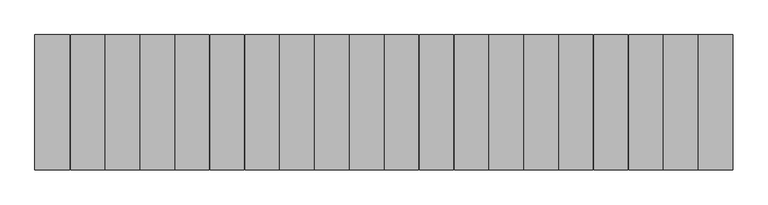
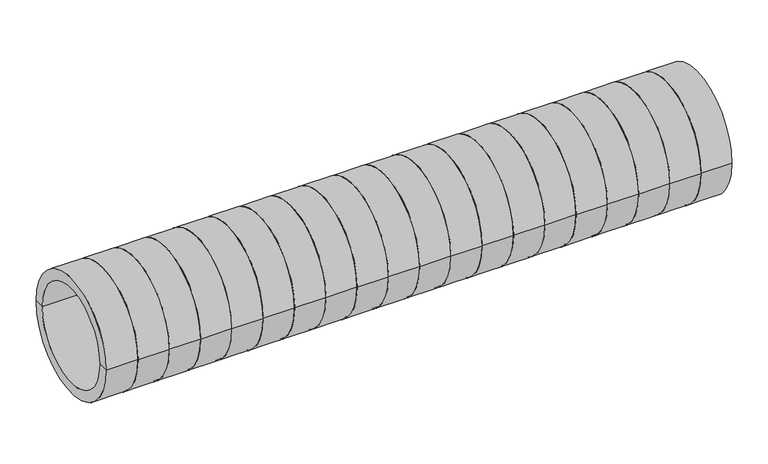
"""IFC4 building model written with IfcOpenShell, lengths in millimetres: duct fitting geometry, HEATPEX - ARIA ADURO - Rura 1m : HEATPEX - ARIA ADURO - Rura 1m."""

from ifc_helpers import new_model, si_unit, frame, origin, place, context, project, spatial, polyline, circle_curve, source, transform, mapped, element, save
from ifc_brep_helpers import plane_surface, cylinder_surface, revolved_surface, advanced_brep


def duct_fitting_e1a536a2(model_context):
    return source(origin(), model_context, "Body", "AdvancedBrep", [
        advanced_brep(
        [(1000.0, -97.0, 0.0), (1000.0, 97.0, 0.0), (1000.0, 80.0, 0.0), (1000.0, -80.0, 0.0), (0.0, -97.0, 0.0), (0.0, 97.0, 0.0), (50.0, 97.0, 0.0), (50.0, -97.0, 0.0), (0.0, -80.0, 0.0), (0.0, 80.0, 0.0), (951.0, -97.0, 0.0), (951.0, 97.0, 0.0), (951.0, -96.0, 0.0), (951.0, 96.0, 0.0), (950.0, -96.0, 0.0), (950.0, 96.0, 0.0), (950.0, -97.0, 0.0), (950.0, 97.0, 0.0), (901.0, -97.0, 0.0), (901.0, 97.0, 0.0), (901.0, -96.0, 0.0), (901.0, 96.0, 0.0), (900.0, -96.0, 0.0), (900.0, 96.0, 0.0), (900.0, -97.0, 0.0), (900.0, 97.0, 0.0), (851.0, -97.0, 0.0), (851.0, 97.0, 0.0), (851.0, -96.0, 0.0), (851.0, 96.0, 0.0), (850.0, -96.0, 0.0), (850.0, 96.0, 0.0), (850.0, -97.0, 0.0), (850.0, 97.0, 0.0), (801.0, -97.0, 0.0), (801.0, 97.0, 0.0), (801.0, -96.0, 0.0), (801.0, 96.0, 0.0), (800.0, -96.0, 0.0), (800.0, 96.0, 0.0), (800.0, -97.0, 0.0), (800.0, 97.0, 0.0), (751.0, -97.0, 0.0), (751.0, 97.0, 0.0), (751.0, -96.0, 0.0), (751.0, 96.0, 0.0), (750.0, -96.0, 0.0), (750.0, 96.0, 0.0), (750.0, -97.0, 0.0), (750.0, 97.0, 0.0), (701.0, -97.0, 0.0), (701.0, 97.0, 0.0), (701.0, -96.0, 0.0), (701.0, 96.0, 0.0), (700.0, -96.0, 0.0), (700.0, 96.0, 0.0), (700.0, -97.0, 0.0), (700.0, 97.0, 0.0), (651.0, -97.0, 0.0), (651.0, 97.0, 0.0), (651.0, -96.0, 0.0), (651.0, 96.0, 0.0), (650.0, -96.0, 0.0), (650.0, 96.0, 0.0), (650.0, -97.0, 0.0), (650.0, 97.0, 0.0), (601.0, -97.0, 0.0), (601.0, 97.0, 0.0), (601.0, -96.0, 0.0), (601.0, 96.0, 0.0), (600.0, -96.0, 0.0), (600.0, 96.0, 0.0), (600.0, -97.0, 0.0), (600.0, 97.0, 0.0), (551.0, -97.0, 0.0), (551.0, 97.0, 0.0), (551.0, -96.0, 0.0), (551.0, 96.0, 0.0), (550.0, -96.0, 0.0), (550.0, 96.0, 0.0), (550.0, -97.0, 0.0), (550.0, 97.0, 0.0), (501.0, -97.0, 0.0), (501.0, 97.0, 0.0), (501.0, -96.0, 0.0), (501.0, 96.0, 0.0), (500.0, -96.0, 0.0), (500.0, 96.0, 0.0), (500.0, -97.0, 0.0), (500.0, 97.0, 0.0), (451.0, -97.0, 0.0), (451.0, 97.0, 0.0), (451.0, -96.0, 0.0), (451.0, 96.0, 0.0), (450.0, -96.0, 0.0), (450.0, 96.0, 0.0), (450.0, -97.0, 0.0), (450.0, 97.0, 0.0), (401.0, -97.0, 0.0), (401.0, 97.0, 0.0), (401.0, -96.0, 0.0), (401.0, 96.0, 0.0), (400.0, -96.0, 0.0), (400.0, 96.0, 0.0), (400.0, -97.0, 0.0), (400.0, 97.0, 0.0), (351.0, -97.0, 0.0), (351.0, 97.0, 0.0), (351.0, -96.0, 0.0), (351.0, 96.0, 0.0), (350.0, -96.0, 0.0), (350.0, 96.0, 0.0), (350.0, -97.0, 0.0), (350.0, 97.0, 0.0), (301.0, -97.0, 0.0), (301.0, 97.0, 0.0), (301.0, -96.0, 0.0), (301.0, 96.0, 0.0), (300.0, -96.0, 0.0), (300.0, 96.0, 0.0), (300.0, -97.0, 0.0), (300.0, 97.0, 0.0), (251.0, -97.0, 0.0), (251.0, 97.0, 0.0), (251.0, -96.0, 0.0), (251.0, 96.0, 0.0), (250.0, -96.0, 0.0), (250.0, 96.0, 0.0), (250.0, -97.0, 0.0), (250.0, 97.0, 0.0), (201.0, -97.0, 0.0), (201.0, 97.0, 0.0), (201.0, -96.0, 0.0), (201.0, 96.0, 0.0), (200.0, -96.0, 0.0), (200.0, 96.0, 0.0), (200.0, -97.0, 0.0), (200.0, 97.0, 0.0), (151.0, -97.0, 0.0), (151.0, 97.0, 0.0), (151.0, -96.0, 0.0), (151.0, 96.0, 0.0), (150.0, -96.0, 0.0), (150.0, 96.0, 0.0), (150.0, -97.0, 0.0), (150.0, 97.0, 0.0), (101.0, -97.0, 0.0), (101.0, 97.0, 0.0), (101.0, -96.0, 0.0), (101.0, 96.0, 0.0), (100.0, -96.0, 0.0), (100.0, 96.0, 0.0), (100.0, -97.0, 0.0), (100.0, 97.0, 0.0), (51.0, -97.0, 0.0), (51.0, 97.0, 0.0), (51.0, -96.0, 0.0), (51.0, 96.0, 0.0), (50.0, -96.0, 0.0), (50.0, 96.0, 0.0)],
        [
            (0, 1, circle_curve(frame((1000.0, 0.0, 0.0), z_axis=(1.0, 0.0, 0.0), x_axis=(0.0, 1.0, 0.0)), 97.0)),
            (1, 2),
            (2, 3, circle_curve(frame((1000.0, 0.0, 0.0), z_axis=(-1.0, 0.0, 0.0), x_axis=(0.0, 1.0, 0.0)), 80.0)),
            (3, 0),
            (1, 0, circle_curve(frame((1000.0, 0.0, 0.0), z_axis=(1.0, 0.0, 0.0), x_axis=(0.0, 1.0, 0.0)), 97.0)),
            (3, 2, circle_curve(frame((1000.0, 0.0, 0.0), z_axis=(-1.0, 0.0, 0.0), x_axis=(0.0, 1.0, 0.0)), 80.0)),
            (4, 5, circle_curve(frame((0.0, 0.0, 0.0), z_axis=(1.0, 0.0, 0.0), x_axis=(0.0, 1.0, 0.0)), 97.0)),
            (5, 6),
            (6, 7, circle_curve(frame((50.0, 0.0, 0.0), z_axis=(-1.0, 0.0, 0.0), x_axis=(0.0, 1.0, 0.0)), 97.0)),
            (7, 4),
            (5, 4, circle_curve(frame((0.0, 0.0, 0.0), z_axis=(1.0, 0.0, 0.0), x_axis=(0.0, 1.0, 0.0)), 97.0)),
            (7, 6, circle_curve(frame((50.0, 0.0, 0.0), z_axis=(-1.0, 0.0, 0.0), x_axis=(0.0, 1.0, 0.0)), 97.0)),
            (8, 9, circle_curve(frame((0.0, 0.0, 0.0), z_axis=(1.0, 0.0, 0.0), x_axis=(0.0, 1.0, 0.0)), 80.0)),
            (9, 5),
            (4, 8),
            (9, 8, circle_curve(frame((0.0, 0.0, 0.0), z_axis=(1.0, 0.0, 0.0), x_axis=(0.0, 1.0, 0.0)), 80.0)),
            (2, 9),
            (8, 3),
            (10, 11, circle_curve(frame((951.0, 0.0, 0.0), z_axis=(1.0, 0.0, 0.0), x_axis=(0.0, 1.0, 0.0)), 97.0)),
            (11, 1),
            (0, 10),
            (11, 10, circle_curve(frame((951.0, 0.0, 0.0), z_axis=(1.0, 0.0, 0.0), x_axis=(0.0, 1.0, 0.0)), 97.0)),
            (12, 13, circle_curve(frame((951.0, 0.0, 0.0), z_axis=(1.0, 0.0, 0.0), x_axis=(0.0, 1.0, 0.0)), 96.0)),
            (13, 11),
            (10, 12),
            (13, 12, circle_curve(frame((951.0, 0.0, 0.0), z_axis=(1.0, 0.0, 0.0), x_axis=(0.0, 1.0, 0.0)), 96.0)),
            (14, 15, circle_curve(frame((950.0, 0.0, 0.0), z_axis=(1.0, 0.0, 0.0), x_axis=(0.0, 1.0, 0.0)), 96.0)),
            (15, 13),
            (12, 14),
            (15, 14, circle_curve(frame((950.0, 0.0, 0.0), z_axis=(1.0, 0.0, 0.0), x_axis=(0.0, 1.0, 0.0)), 96.0)),
            (16, 17, circle_curve(frame((950.0, 0.0, 0.0), z_axis=(1.0, 0.0, 0.0), x_axis=(0.0, 1.0, 0.0)), 97.0)),
            (17, 15),
            (14, 16),
            (17, 16, circle_curve(frame((950.0, 0.0, 0.0), z_axis=(1.0, 0.0, 0.0), x_axis=(0.0, 1.0, 0.0)), 97.0)),
            (18, 19, circle_curve(frame((901.0, 0.0, 0.0), z_axis=(1.0, 0.0, 0.0), x_axis=(0.0, 1.0, 0.0)), 97.0)),
            (19, 17),
            (16, 18),
            (19, 18, circle_curve(frame((901.0, 0.0, 0.0), z_axis=(1.0, 0.0, 0.0), x_axis=(0.0, 1.0, 0.0)), 97.0)),
            (20, 21, circle_curve(frame((901.0, 0.0, 0.0), z_axis=(1.0, 0.0, 0.0), x_axis=(0.0, 1.0, 0.0)), 96.0)),
            (21, 19),
            (18, 20),
            (21, 20, circle_curve(frame((901.0, 0.0, 0.0), z_axis=(1.0, 0.0, 0.0), x_axis=(0.0, 1.0, 0.0)), 96.0)),
            (22, 23, circle_curve(frame((900.0, 0.0, 0.0), z_axis=(1.0, 0.0, 0.0), x_axis=(0.0, 1.0, 0.0)), 96.0)),
            (23, 21),
            (20, 22),
            (23, 22, circle_curve(frame((900.0, 0.0, 0.0), z_axis=(1.0, 0.0, 0.0), x_axis=(0.0, 1.0, 0.0)), 96.0)),
            (24, 25, circle_curve(frame((900.0, 0.0, 0.0), z_axis=(1.0, 0.0, 0.0), x_axis=(0.0, 1.0, 0.0)), 97.0)),
            (25, 23),
            (22, 24),
            (25, 24, circle_curve(frame((900.0, 0.0, 0.0), z_axis=(1.0, 0.0, 0.0), x_axis=(0.0, 1.0, 0.0)), 97.0)),
            (26, 27, circle_curve(frame((851.0, 0.0, 0.0), z_axis=(1.0, 0.0, 0.0), x_axis=(0.0, 1.0, 0.0)), 97.0)),
            (27, 25),
            (24, 26),
            (27, 26, circle_curve(frame((851.0, 0.0, 0.0), z_axis=(1.0, 0.0, 0.0), x_axis=(0.0, 1.0, 0.0)), 97.0)),
            (28, 29, circle_curve(frame((851.0, 0.0, 0.0), z_axis=(1.0, 0.0, 0.0), x_axis=(0.0, 1.0, 0.0)), 96.0)),
            (29, 27),
            (26, 28),
            (29, 28, circle_curve(frame((851.0, 0.0, 0.0), z_axis=(1.0, 0.0, 0.0), x_axis=(0.0, 1.0, 0.0)), 96.0)),
            (30, 31, circle_curve(frame((850.0, 0.0, 0.0), z_axis=(1.0, 0.0, 0.0), x_axis=(0.0, 1.0, 0.0)), 96.0)),
            (31, 29),
            (28, 30),
            (31, 30, circle_curve(frame((850.0, 0.0, 0.0), z_axis=(1.0, 0.0, 0.0), x_axis=(0.0, 1.0, 0.0)), 96.0)),
            (32, 33, circle_curve(frame((850.0, 0.0, 0.0), z_axis=(1.0, 0.0, 0.0), x_axis=(0.0, 1.0, 0.0)), 97.0)),
            (33, 31),
            (30, 32),
            (33, 32, circle_curve(frame((850.0, 0.0, 0.0), z_axis=(1.0, 0.0, 0.0), x_axis=(0.0, 1.0, 0.0)), 97.0)),
            (34, 35, circle_curve(frame((801.0, 0.0, 0.0), z_axis=(1.0, 0.0, 0.0), x_axis=(0.0, 1.0, 0.0)), 97.0)),
            (35, 33),
            (32, 34),
            (35, 34, circle_curve(frame((801.0, 0.0, 0.0), z_axis=(1.0, 0.0, 0.0), x_axis=(0.0, 1.0, 0.0)), 97.0)),
            (36, 37, circle_curve(frame((801.0, 0.0, 0.0), z_axis=(1.0, 0.0, 0.0), x_axis=(0.0, 1.0, 0.0)), 96.0)),
            (37, 35),
            (34, 36),
            (37, 36, circle_curve(frame((801.0, 0.0, 0.0), z_axis=(1.0, 0.0, 0.0), x_axis=(0.0, 1.0, 0.0)), 96.0)),
            (38, 39, circle_curve(frame((800.0, 0.0, 0.0), z_axis=(1.0, 0.0, 0.0), x_axis=(0.0, 1.0, 0.0)), 96.0)),
            (39, 37),
            (36, 38),
            (39, 38, circle_curve(frame((800.0, 0.0, 0.0), z_axis=(1.0, 0.0, 0.0), x_axis=(0.0, 1.0, 0.0)), 96.0)),
            (40, 41, circle_curve(frame((800.0, 0.0, 0.0), z_axis=(1.0, 0.0, 0.0), x_axis=(0.0, 1.0, 0.0)), 97.0)),
            (41, 39),
            (38, 40),
            (41, 40, circle_curve(frame((800.0, 0.0, 0.0), z_axis=(1.0, 0.0, 0.0), x_axis=(0.0, 1.0, 0.0)), 97.0)),
            (42, 43, circle_curve(frame((751.0, 0.0, 0.0), z_axis=(1.0, 0.0, 0.0), x_axis=(0.0, 1.0, 0.0)), 97.0)),
            (43, 41),
            (40, 42),
            (43, 42, circle_curve(frame((751.0, 0.0, 0.0), z_axis=(1.0, 0.0, 0.0), x_axis=(0.0, 1.0, 0.0)), 97.0)),
            (44, 45, circle_curve(frame((751.0, 0.0, 0.0), z_axis=(1.0, 0.0, 0.0), x_axis=(0.0, 1.0, 0.0)), 96.0)),
            (45, 43),
            (42, 44),
            (45, 44, circle_curve(frame((751.0, 0.0, 0.0), z_axis=(1.0, 0.0, 0.0), x_axis=(0.0, 1.0, 0.0)), 96.0)),
            (46, 47, circle_curve(frame((750.0, 0.0, 0.0), z_axis=(1.0, 0.0, 0.0), x_axis=(0.0, 1.0, 0.0)), 96.0)),
            (47, 45),
            (44, 46),
            (47, 46, circle_curve(frame((750.0, 0.0, 0.0), z_axis=(1.0, 0.0, 0.0), x_axis=(0.0, 1.0, 0.0)), 96.0)),
            (48, 49, circle_curve(frame((750.0, 0.0, 0.0), z_axis=(1.0, 0.0, 0.0), x_axis=(0.0, 1.0, 0.0)), 97.0)),
            (49, 47),
            (46, 48),
            (49, 48, circle_curve(frame((750.0, 0.0, 0.0), z_axis=(1.0, 0.0, 0.0), x_axis=(0.0, 1.0, 0.0)), 97.0)),
            (50, 51, circle_curve(frame((701.0, 0.0, 0.0), z_axis=(1.0, 0.0, 0.0), x_axis=(0.0, 1.0, 0.0)), 97.0)),
            (51, 49),
            (48, 50),
            (51, 50, circle_curve(frame((701.0, 0.0, 0.0), z_axis=(1.0, 0.0, 0.0), x_axis=(0.0, 1.0, 0.0)), 97.0)),
            (52, 53, circle_curve(frame((701.0, 0.0, 0.0), z_axis=(1.0, 0.0, 0.0), x_axis=(0.0, 1.0, 0.0)), 96.0)),
            (53, 51),
            (50, 52),
            (53, 52, circle_curve(frame((701.0, 0.0, 0.0), z_axis=(1.0, 0.0, 0.0), x_axis=(0.0, 1.0, 0.0)), 96.0)),
            (54, 55, circle_curve(frame((700.0, 0.0, 0.0), z_axis=(1.0, 0.0, 0.0), x_axis=(0.0, 1.0, 0.0)), 96.0)),
            (55, 53),
            (52, 54),
            (55, 54, circle_curve(frame((700.0, 0.0, 0.0), z_axis=(1.0, 0.0, 0.0), x_axis=(0.0, 1.0, 0.0)), 96.0)),
            (56, 57, circle_curve(frame((700.0, 0.0, 0.0), z_axis=(1.0, 0.0, 0.0), x_axis=(0.0, 1.0, 0.0)), 97.0)),
            (57, 55),
            (54, 56),
            (57, 56, circle_curve(frame((700.0, 0.0, 0.0), z_axis=(1.0, 0.0, 0.0), x_axis=(0.0, 1.0, 0.0)), 97.0)),
            (58, 59, circle_curve(frame((651.0, 0.0, 0.0), z_axis=(1.0, 0.0, 0.0), x_axis=(0.0, 1.0, 0.0)), 97.0)),
            (59, 57),
            (56, 58),
            (59, 58, circle_curve(frame((651.0, 0.0, 0.0), z_axis=(1.0, 0.0, 0.0), x_axis=(0.0, 1.0, 0.0)), 97.0)),
            (60, 61, circle_curve(frame((651.0, 0.0, 0.0), z_axis=(1.0, 0.0, 0.0), x_axis=(0.0, 1.0, 0.0)), 96.0)),
            (61, 59),
            (58, 60),
            (61, 60, circle_curve(frame((651.0, 0.0, 0.0), z_axis=(1.0, 0.0, 0.0), x_axis=(0.0, 1.0, 0.0)), 96.0)),
            (62, 63, circle_curve(frame((650.0, 0.0, 0.0), z_axis=(1.0, 0.0, 0.0), x_axis=(0.0, 1.0, 0.0)), 96.0)),
            (63, 61),
            (60, 62),
            (63, 62, circle_curve(frame((650.0, 0.0, 0.0), z_axis=(1.0, 0.0, 0.0), x_axis=(0.0, 1.0, 0.0)), 96.0)),
            (64, 65, circle_curve(frame((650.0, 0.0, 0.0), z_axis=(1.0, 0.0, 0.0), x_axis=(0.0, 1.0, 0.0)), 97.0)),
            (65, 63),
            (62, 64),
            (65, 64, circle_curve(frame((650.0, 0.0, 0.0), z_axis=(1.0, 0.0, 0.0), x_axis=(0.0, 1.0, 0.0)), 97.0)),
            (66, 67, circle_curve(frame((601.0, 0.0, 0.0), z_axis=(1.0, 0.0, 0.0), x_axis=(0.0, 1.0, 0.0)), 97.0)),
            (67, 65),
            (64, 66),
            (67, 66, circle_curve(frame((601.0, 0.0, 0.0), z_axis=(1.0, 0.0, 0.0), x_axis=(0.0, 1.0, 0.0)), 97.0)),
            (68, 69, circle_curve(frame((601.0, 0.0, 0.0), z_axis=(1.0, 0.0, 0.0), x_axis=(0.0, 1.0, 0.0)), 96.0)),
            (69, 67),
            (66, 68),
            (69, 68, circle_curve(frame((601.0, 0.0, 0.0), z_axis=(1.0, 0.0, 0.0), x_axis=(0.0, 1.0, 0.0)), 96.0)),
            (70, 71, circle_curve(frame((600.0, 0.0, 0.0), z_axis=(1.0, 0.0, 0.0), x_axis=(0.0, 1.0, 0.0)), 96.0)),
            (71, 69),
            (68, 70),
            (71, 70, circle_curve(frame((600.0, 0.0, 0.0), z_axis=(1.0, 0.0, 0.0), x_axis=(0.0, 1.0, 0.0)), 96.0)),
            (72, 73, circle_curve(frame((600.0, 0.0, 0.0), z_axis=(1.0, 0.0, 0.0), x_axis=(0.0, 1.0, 0.0)), 97.0)),
            (73, 71),
            (70, 72),
            (73, 72, circle_curve(frame((600.0, 0.0, 0.0), z_axis=(1.0, 0.0, 0.0), x_axis=(0.0, 1.0, 0.0)), 97.0)),
            (74, 75, circle_curve(frame((551.0, 0.0, 0.0), z_axis=(1.0, 0.0, 0.0), x_axis=(0.0, 1.0, 0.0)), 97.0)),
            (75, 73),
            (72, 74),
            (75, 74, circle_curve(frame((551.0, 0.0, 0.0), z_axis=(1.0, 0.0, 0.0), x_axis=(0.0, 1.0, 0.0)), 97.0)),
            (76, 77, circle_curve(frame((551.0, 0.0, 0.0), z_axis=(1.0, 0.0, 0.0), x_axis=(0.0, 1.0, 0.0)), 96.0)),
            (77, 75),
            (74, 76),
            (77, 76, circle_curve(frame((551.0, 0.0, 0.0), z_axis=(1.0, 0.0, 0.0), x_axis=(0.0, 1.0, 0.0)), 96.0)),
            (78, 79, circle_curve(frame((550.0, 0.0, 0.0), z_axis=(1.0, 0.0, 0.0), x_axis=(0.0, 1.0, 0.0)), 96.0)),
            (79, 77),
            (76, 78),
            (79, 78, circle_curve(frame((550.0, 0.0, 0.0), z_axis=(1.0, 0.0, 0.0), x_axis=(0.0, 1.0, 0.0)), 96.0)),
            (80, 81, circle_curve(frame((550.0, 0.0, 0.0), z_axis=(1.0, 0.0, 0.0), x_axis=(0.0, 1.0, 0.0)), 97.0)),
            (81, 79),
            (78, 80),
            (81, 80, circle_curve(frame((550.0, 0.0, 0.0), z_axis=(1.0, 0.0, 0.0), x_axis=(0.0, 1.0, 0.0)), 97.0)),
            (82, 83, circle_curve(frame((501.0, 0.0, 0.0), z_axis=(1.0, 0.0, 0.0), x_axis=(0.0, 1.0, 0.0)), 97.0)),
            (83, 81),
            (80, 82),
            (83, 82, circle_curve(frame((501.0, 0.0, 0.0), z_axis=(1.0, 0.0, 0.0), x_axis=(0.0, 1.0, 0.0)), 97.0)),
            (84, 85, circle_curve(frame((501.0, 0.0, 0.0), z_axis=(1.0, 0.0, 0.0), x_axis=(0.0, 1.0, 0.0)), 96.0)),
            (85, 83),
            (82, 84),
            (85, 84, circle_curve(frame((501.0, 0.0, 0.0), z_axis=(1.0, 0.0, 0.0), x_axis=(0.0, 1.0, 0.0)), 96.0)),
            (86, 87, circle_curve(frame((500.0, 0.0, 0.0), z_axis=(1.0, 0.0, 0.0), x_axis=(0.0, 1.0, 0.0)), 96.0)),
            (87, 85),
            (84, 86),
            (87, 86, circle_curve(frame((500.0, 0.0, 0.0), z_axis=(1.0, 0.0, 0.0), x_axis=(0.0, 1.0, 0.0)), 96.0)),
            (88, 89, circle_curve(frame((500.0, 0.0, 0.0), z_axis=(1.0, 0.0, 0.0), x_axis=(0.0, 1.0, 0.0)), 97.0)),
            (89, 87),
            (86, 88),
            (89, 88, circle_curve(frame((500.0, 0.0, 0.0), z_axis=(1.0, 0.0, 0.0), x_axis=(0.0, 1.0, 0.0)), 97.0)),
            (90, 91, circle_curve(frame((451.0, 0.0, 0.0), z_axis=(1.0, 0.0, 0.0), x_axis=(0.0, 1.0, 0.0)), 97.0)),
            (91, 89),
            (88, 90),
            (91, 90, circle_curve(frame((451.0, 0.0, 0.0), z_axis=(1.0, 0.0, 0.0), x_axis=(0.0, 1.0, 0.0)), 97.0)),
            (92, 93, circle_curve(frame((451.0, 0.0, 0.0), z_axis=(1.0, 0.0, 0.0), x_axis=(0.0, 1.0, 0.0)), 96.0)),
            (93, 91),
            (90, 92),
            (93, 92, circle_curve(frame((451.0, 0.0, 0.0), z_axis=(1.0, 0.0, 0.0), x_axis=(0.0, 1.0, 0.0)), 96.0)),
            (94, 95, circle_curve(frame((450.0, 0.0, 0.0), z_axis=(1.0, 0.0, 0.0), x_axis=(0.0, 1.0, 0.0)), 96.0)),
            (95, 93),
            (92, 94),
            (95, 94, circle_curve(frame((450.0, 0.0, 0.0), z_axis=(1.0, 0.0, 0.0), x_axis=(0.0, 1.0, 0.0)), 96.0)),
            (96, 97, circle_curve(frame((450.0, 0.0, 0.0), z_axis=(1.0, 0.0, 0.0), x_axis=(0.0, 1.0, 0.0)), 97.0)),
            (97, 95),
            (94, 96),
            (97, 96, circle_curve(frame((450.0, 0.0, 0.0), z_axis=(1.0, 0.0, 0.0), x_axis=(0.0, 1.0, 0.0)), 97.0)),
            (98, 99, circle_curve(frame((401.0, 0.0, 0.0), z_axis=(1.0, 0.0, 0.0), x_axis=(0.0, 1.0, 0.0)), 97.0)),
            (99, 97),
            (96, 98),
            (99, 98, circle_curve(frame((401.0, 0.0, 0.0), z_axis=(1.0, 0.0, 0.0), x_axis=(0.0, 1.0, 0.0)), 97.0)),
            (100, 101, circle_curve(frame((401.0, 0.0, 0.0), z_axis=(1.0, 0.0, 0.0), x_axis=(0.0, 1.0, 0.0)), 96.0)),
            (101, 99),
            (98, 100),
            (101, 100, circle_curve(frame((401.0, 0.0, 0.0), z_axis=(1.0, 0.0, 0.0), x_axis=(0.0, 1.0, 0.0)), 96.0)),
            (102, 103, circle_curve(frame((400.0, 0.0, 0.0), z_axis=(1.0, 0.0, 0.0), x_axis=(0.0, 1.0, 0.0)), 96.0)),
            (103, 101),
            (100, 102),
            (103, 102, circle_curve(frame((400.0, 0.0, 0.0), z_axis=(1.0, 0.0, 0.0), x_axis=(0.0, 1.0, 0.0)), 96.0)),
            (104, 105, circle_curve(frame((400.0, 0.0, 0.0), z_axis=(1.0, 0.0, 0.0), x_axis=(0.0, 1.0, 0.0)), 97.0)),
            (105, 103),
            (102, 104),
            (105, 104, circle_curve(frame((400.0, 0.0, 0.0), z_axis=(1.0, 0.0, 0.0), x_axis=(0.0, 1.0, 0.0)), 97.0)),
            (106, 107, circle_curve(frame((351.0, 0.0, 0.0), z_axis=(1.0, 0.0, 0.0), x_axis=(0.0, 1.0, 0.0)), 97.0)),
            (107, 105),
            (104, 106),
            (107, 106, circle_curve(frame((351.0, 0.0, 0.0), z_axis=(1.0, 0.0, 0.0), x_axis=(0.0, 1.0, 0.0)), 97.0)),
            (108, 109, circle_curve(frame((351.0, 0.0, 0.0), z_axis=(1.0, 0.0, 0.0), x_axis=(0.0, 1.0, 0.0)), 96.0)),
            (109, 107),
            (106, 108),
            (109, 108, circle_curve(frame((351.0, 0.0, 0.0), z_axis=(1.0, 0.0, 0.0), x_axis=(0.0, 1.0, 0.0)), 96.0)),
            (110, 111, circle_curve(frame((350.0, 0.0, 0.0), z_axis=(1.0, 0.0, 0.0), x_axis=(0.0, 1.0, 0.0)), 96.0)),
            (111, 109),
            (108, 110),
            (111, 110, circle_curve(frame((350.0, 0.0, 0.0), z_axis=(1.0, 0.0, 0.0), x_axis=(0.0, 1.0, 0.0)), 96.0)),
            (112, 113, circle_curve(frame((350.0, 0.0, 0.0), z_axis=(1.0, 0.0, 0.0), x_axis=(0.0, 1.0, 0.0)), 97.0)),
            (113, 111),
            (110, 112),
            (113, 112, circle_curve(frame((350.0, 0.0, 0.0), z_axis=(1.0, 0.0, 0.0), x_axis=(0.0, 1.0, 0.0)), 97.0)),
            (114, 115, circle_curve(frame((301.0, 0.0, 0.0), z_axis=(1.0, 0.0, 0.0), x_axis=(0.0, 1.0, 0.0)), 97.0)),
            (115, 113),
            (112, 114),
            (115, 114, circle_curve(frame((301.0, 0.0, 0.0), z_axis=(1.0, 0.0, 0.0), x_axis=(0.0, 1.0, 0.0)), 97.0)),
            (116, 117, circle_curve(frame((301.0, 0.0, 0.0), z_axis=(1.0, 0.0, 0.0), x_axis=(0.0, 1.0, 0.0)), 96.0)),
            (117, 115),
            (114, 116),
            (117, 116, circle_curve(frame((301.0, 0.0, 0.0), z_axis=(1.0, 0.0, 0.0), x_axis=(0.0, 1.0, 0.0)), 96.0)),
            (118, 119, circle_curve(frame((300.0, 0.0, 0.0), z_axis=(1.0, 0.0, 0.0), x_axis=(0.0, 1.0, 0.0)), 96.0)),
            (119, 117),
            (116, 118),
            (119, 118, circle_curve(frame((300.0, 0.0, 0.0), z_axis=(1.0, 0.0, 0.0), x_axis=(0.0, 1.0, 0.0)), 96.0)),
            (120, 121, circle_curve(frame((300.0, 0.0, 0.0), z_axis=(1.0, 0.0, 0.0), x_axis=(0.0, 1.0, 0.0)), 97.0)),
            (121, 119),
            (118, 120),
            (121, 120, circle_curve(frame((300.0, 0.0, 0.0), z_axis=(1.0, 0.0, 0.0), x_axis=(0.0, 1.0, 0.0)), 97.0)),
            (122, 123, circle_curve(frame((251.0, 0.0, 0.0), z_axis=(1.0, 0.0, 0.0), x_axis=(0.0, 1.0, 0.0)), 97.0)),
            (123, 121),
            (120, 122),
            (123, 122, circle_curve(frame((251.0, 0.0, 0.0), z_axis=(1.0, 0.0, 0.0), x_axis=(0.0, 1.0, 0.0)), 97.0)),
            (124, 125, circle_curve(frame((251.0, 0.0, 0.0), z_axis=(1.0, 0.0, 0.0), x_axis=(0.0, 1.0, 0.0)), 96.0)),
            (125, 123),
            (122, 124),
            (125, 124, circle_curve(frame((251.0, 0.0, 0.0), z_axis=(1.0, 0.0, 0.0), x_axis=(0.0, 1.0, 0.0)), 96.0)),
            (126, 127, circle_curve(frame((250.0, 0.0, 0.0), z_axis=(1.0, 0.0, 0.0), x_axis=(0.0, 1.0, 0.0)), 96.0)),
            (127, 125),
            (124, 126),
            (127, 126, circle_curve(frame((250.0, 0.0, 0.0), z_axis=(1.0, 0.0, 0.0), x_axis=(0.0, 1.0, 0.0)), 96.0)),
            (128, 129, circle_curve(frame((250.0, 0.0, 0.0), z_axis=(1.0, 0.0, 0.0), x_axis=(0.0, 1.0, 0.0)), 97.0)),
            (129, 127),
            (126, 128),
            (129, 128, circle_curve(frame((250.0, 0.0, 0.0), z_axis=(1.0, 0.0, 0.0), x_axis=(0.0, 1.0, 0.0)), 97.0)),
            (130, 131, circle_curve(frame((201.0, 0.0, 0.0), z_axis=(1.0, 0.0, 0.0), x_axis=(0.0, 1.0, 0.0)), 97.0)),
            (131, 129),
            (128, 130),
            (131, 130, circle_curve(frame((201.0, 0.0, 0.0), z_axis=(1.0, 0.0, 0.0), x_axis=(0.0, 1.0, 0.0)), 97.0)),
            (132, 133, circle_curve(frame((201.0, 0.0, 0.0), z_axis=(1.0, 0.0, 0.0), x_axis=(0.0, 1.0, 0.0)), 96.0)),
            (133, 131),
            (130, 132),
            (133, 132, circle_curve(frame((201.0, 0.0, 0.0), z_axis=(1.0, 0.0, 0.0), x_axis=(0.0, 1.0, 0.0)), 96.0)),
            (134, 135, circle_curve(frame((200.0, 0.0, 0.0), z_axis=(1.0, 0.0, 0.0), x_axis=(0.0, 1.0, 0.0)), 96.0)),
            (135, 133),
            (132, 134),
            (135, 134, circle_curve(frame((200.0, 0.0, 0.0), z_axis=(1.0, 0.0, 0.0), x_axis=(0.0, 1.0, 0.0)), 96.0)),
            (136, 137, circle_curve(frame((200.0, 0.0, 0.0), z_axis=(1.0, 0.0, 0.0), x_axis=(0.0, 1.0, 0.0)), 97.0)),
            (137, 135),
            (134, 136),
            (137, 136, circle_curve(frame((200.0, 0.0, 0.0), z_axis=(1.0, 0.0, 0.0), x_axis=(0.0, 1.0, 0.0)), 97.0)),
            (138, 139, circle_curve(frame((151.0, 0.0, 0.0), z_axis=(1.0, 0.0, 0.0), x_axis=(0.0, 1.0, 0.0)), 97.0)),
            (139, 137),
            (136, 138),
            (139, 138, circle_curve(frame((151.0, 0.0, 0.0), z_axis=(1.0, 0.0, 0.0), x_axis=(0.0, 1.0, 0.0)), 97.0)),
            (140, 141, circle_curve(frame((151.0, 0.0, 0.0), z_axis=(1.0, 0.0, 0.0), x_axis=(0.0, 1.0, 0.0)), 96.0)),
            (141, 139),
            (138, 140),
            (141, 140, circle_curve(frame((151.0, 0.0, 0.0), z_axis=(1.0, 0.0, 0.0), x_axis=(0.0, 1.0, 0.0)), 96.0)),
            (142, 143, circle_curve(frame((150.0, 0.0, 0.0), z_axis=(1.0, 0.0, 0.0), x_axis=(0.0, 1.0, 0.0)), 96.0)),
            (143, 141),
            (140, 142),
            (143, 142, circle_curve(frame((150.0, 0.0, 0.0), z_axis=(1.0, 0.0, 0.0), x_axis=(0.0, 1.0, 0.0)), 96.0)),
            (144, 145, circle_curve(frame((150.0, 0.0, 0.0), z_axis=(1.0, 0.0, 0.0), x_axis=(0.0, 1.0, 0.0)), 97.0)),
            (145, 143),
            (142, 144),
            (145, 144, circle_curve(frame((150.0, 0.0, 0.0), z_axis=(1.0, 0.0, 0.0), x_axis=(0.0, 1.0, 0.0)), 97.0)),
            (146, 147, circle_curve(frame((101.0, 0.0, 0.0), z_axis=(1.0, 0.0, 0.0), x_axis=(0.0, 1.0, 0.0)), 97.0)),
            (147, 145),
            (144, 146),
            (147, 146, circle_curve(frame((101.0, 0.0, 0.0), z_axis=(1.0, 0.0, 0.0), x_axis=(0.0, 1.0, 0.0)), 97.0)),
            (148, 149, circle_curve(frame((101.0, 0.0, 0.0), z_axis=(1.0, 0.0, 0.0), x_axis=(0.0, 1.0, 0.0)), 96.0)),
            (149, 147),
            (146, 148),
            (149, 148, circle_curve(frame((101.0, 0.0, 0.0), z_axis=(1.0, 0.0, 0.0), x_axis=(0.0, 1.0, 0.0)), 96.0)),
            (150, 151, circle_curve(frame((100.0, 0.0, 0.0), z_axis=(1.0, 0.0, 0.0), x_axis=(0.0, 1.0, 0.0)), 96.0)),
            (151, 149),
            (148, 150),
            (151, 150, circle_curve(frame((100.0, 0.0, 0.0), z_axis=(1.0, 0.0, 0.0), x_axis=(0.0, 1.0, 0.0)), 96.0)),
            (152, 153, circle_curve(frame((100.0, 0.0, 0.0), z_axis=(1.0, 0.0, 0.0), x_axis=(0.0, 1.0, 0.0)), 97.0)),
            (153, 151),
            (150, 152),
            (153, 152, circle_curve(frame((100.0, 0.0, 0.0), z_axis=(1.0, 0.0, 0.0), x_axis=(0.0, 1.0, 0.0)), 97.0)),
            (154, 155, circle_curve(frame((51.0, 0.0, 0.0), z_axis=(1.0, 0.0, 0.0), x_axis=(0.0, 1.0, 0.0)), 97.0)),
            (155, 153),
            (152, 154),
            (155, 154, circle_curve(frame((51.0, 0.0, 0.0), z_axis=(1.0, 0.0, 0.0), x_axis=(0.0, 1.0, 0.0)), 97.0)),
            (156, 157, circle_curve(frame((51.0, 0.0, 0.0), z_axis=(1.0, 0.0, 0.0), x_axis=(0.0, 1.0, 0.0)), 96.0)),
            (157, 155),
            (154, 156),
            (157, 156, circle_curve(frame((51.0, 0.0, 0.0), z_axis=(1.0, 0.0, 0.0), x_axis=(0.0, 1.0, 0.0)), 96.0)),
            (158, 159, circle_curve(frame((50.0, 0.0, 0.0), z_axis=(1.0, 0.0, 0.0), x_axis=(0.0, 1.0, 0.0)), 96.0)),
            (159, 157),
            (156, 158),
            (159, 158, circle_curve(frame((50.0, 0.0, 0.0), z_axis=(1.0, 0.0, 0.0), x_axis=(0.0, 1.0, 0.0)), 96.0)),
            (6, 159),
            (158, 7),
        ],
        [
            plane_surface(frame((1000.0, 0.0, 0.0), z_axis=(1.0, 0.0, 0.0), x_axis=(0.0, 1.0, 0.0))),
            cylinder_surface(frame((845.0, 0.0, 0.0), z_axis=(-1.0, 0.0, 0.0), x_axis=(0.0, 1.0, 0.0)), 97.0),
            plane_surface(frame((0.0, 0.0, 0.0), z_axis=(-1.0, 0.0, 0.0), x_axis=(0.0, 1.0, 0.0))),
            revolved_surface(polyline([(0.0, 80.0, 0.0), (1000.0, 80.0, 0.0)]), (845.0, 0.0, 0.0), (-1.0, 0.0, 0.0)),
            plane_surface(frame((951.0, 0.0, 0.0), z_axis=(-1.0, 0.0, 0.0), x_axis=(0.0, 1.0, 0.0))),
            cylinder_surface(frame((845.0, 0.0, 0.0), z_axis=(-1.0, 0.0, 0.0), x_axis=(0.0, 1.0, 0.0)), 96.0),
            plane_surface(frame((950.0, 0.0, 0.0), z_axis=(1.0, 0.0, 0.0), x_axis=(0.0, 1.0, 0.0))),
            plane_surface(frame((901.0, 0.0, 0.0), z_axis=(-1.0, 0.0, 0.0), x_axis=(0.0, 1.0, 0.0))),
            plane_surface(frame((900.0, 0.0, 0.0), z_axis=(1.0, 0.0, 0.0), x_axis=(0.0, 1.0, 0.0))),
            plane_surface(frame((851.0, 0.0, 0.0), z_axis=(-1.0, 0.0, 0.0), x_axis=(0.0, 1.0, 0.0))),
            plane_surface(frame((850.0, 0.0, 0.0), z_axis=(1.0, 0.0, 0.0), x_axis=(0.0, 1.0, 0.0))),
            plane_surface(frame((801.0, 0.0, 0.0), z_axis=(-1.0, 0.0, 0.0), x_axis=(0.0, 1.0, 0.0))),
            plane_surface(frame((800.0, 0.0, 0.0), z_axis=(1.0, 0.0, 0.0), x_axis=(0.0, 1.0, 0.0))),
            plane_surface(frame((751.0, 0.0, 0.0), z_axis=(-1.0, 0.0, 0.0), x_axis=(0.0, 1.0, 0.0))),
            plane_surface(frame((750.0, 0.0, 0.0), z_axis=(1.0, 0.0, 0.0), x_axis=(0.0, 1.0, 0.0))),
            plane_surface(frame((701.0, 0.0, 0.0), z_axis=(-1.0, 0.0, 0.0), x_axis=(0.0, 1.0, 0.0))),
            plane_surface(frame((700.0, 0.0, 0.0), z_axis=(1.0, 0.0, 0.0), x_axis=(0.0, 1.0, 0.0))),
            plane_surface(frame((651.0, 0.0, 0.0), z_axis=(-1.0, 0.0, 0.0), x_axis=(0.0, 1.0, 0.0))),
            plane_surface(frame((650.0, 0.0, 0.0), z_axis=(1.0, 0.0, 0.0), x_axis=(0.0, 1.0, 0.0))),
            plane_surface(frame((601.0, 0.0, 0.0), z_axis=(-1.0, 0.0, 0.0), x_axis=(0.0, 1.0, 0.0))),
            plane_surface(frame((600.0, 0.0, 0.0), z_axis=(1.0, 0.0, 0.0), x_axis=(0.0, 1.0, 0.0))),
            plane_surface(frame((551.0, 0.0, 0.0), z_axis=(-1.0, 0.0, 0.0), x_axis=(0.0, 1.0, 0.0))),
            plane_surface(frame((550.0, 0.0, 0.0), z_axis=(1.0, 0.0, 0.0), x_axis=(0.0, 1.0, 0.0))),
            plane_surface(frame((501.0, 0.0, 0.0), z_axis=(-1.0, 0.0, 0.0), x_axis=(0.0, 1.0, 0.0))),
            plane_surface(frame((500.0, 0.0, 0.0), z_axis=(1.0, 0.0, 0.0), x_axis=(0.0, 1.0, 0.0))),
            plane_surface(frame((451.0, 0.0, 0.0), z_axis=(-1.0, 0.0, 0.0), x_axis=(0.0, 1.0, 0.0))),
            plane_surface(frame((450.0, 0.0, 0.0), z_axis=(1.0, 0.0, 0.0), x_axis=(0.0, 1.0, 0.0))),
            plane_surface(frame((401.0, 0.0, 0.0), z_axis=(-1.0, 0.0, 0.0), x_axis=(0.0, 1.0, 0.0))),
            plane_surface(frame((400.0, 0.0, 0.0), z_axis=(1.0, 0.0, 0.0), x_axis=(0.0, 1.0, 0.0))),
            plane_surface(frame((351.0, 0.0, 0.0), z_axis=(-1.0, 0.0, 0.0), x_axis=(0.0, 1.0, 0.0))),
            plane_surface(frame((350.0, 0.0, 0.0), z_axis=(1.0, 0.0, 0.0), x_axis=(0.0, 1.0, 0.0))),
            plane_surface(frame((301.0, 0.0, 0.0), z_axis=(-1.0, 0.0, 0.0), x_axis=(0.0, 1.0, 0.0))),
            plane_surface(frame((300.0, 0.0, 0.0), z_axis=(1.0, 0.0, 0.0), x_axis=(0.0, 1.0, 0.0))),
            plane_surface(frame((251.0, 0.0, 0.0), z_axis=(-1.0, 0.0, 0.0), x_axis=(0.0, 1.0, 0.0))),
            plane_surface(frame((250.0, 0.0, 0.0), z_axis=(1.0, 0.0, 0.0), x_axis=(0.0, 1.0, 0.0))),
            plane_surface(frame((201.0, 0.0, 0.0), z_axis=(-1.0, 0.0, 0.0), x_axis=(0.0, 1.0, 0.0))),
            plane_surface(frame((200.0, 0.0, 0.0), z_axis=(1.0, 0.0, 0.0), x_axis=(0.0, 1.0, 0.0))),
            plane_surface(frame((151.0, 0.0, 0.0), z_axis=(-1.0, 0.0, 0.0), x_axis=(0.0, 1.0, 0.0))),
            plane_surface(frame((150.0, 0.0, 0.0), z_axis=(1.0, 0.0, 0.0), x_axis=(0.0, 1.0, 0.0))),
            plane_surface(frame((101.0, 0.0, 0.0), z_axis=(-1.0, 0.0, 0.0), x_axis=(0.0, 1.0, 0.0))),
            plane_surface(frame((100.0, 0.0, 0.0), z_axis=(1.0, 0.0, 0.0), x_axis=(0.0, 1.0, 0.0))),
            plane_surface(frame((51.0, 0.0, 0.0), z_axis=(-1.0, 0.0, 0.0), x_axis=(0.0, 1.0, 0.0))),
            plane_surface(frame((50.0, 0.0, 0.0), z_axis=(1.0, 0.0, 0.0), x_axis=(0.0, 1.0, 0.0))),
        ],
        [
            (0, [[1, 2, 3, 4]]),
            (0, [[5, -4, 6, -2]]),
            (1, [[7, 8, 9, 10]]),
            (1, [[11, -10, 12, -8]]),
            (2, [[13, 14, -7, 15]]),
            (2, [[16, -15, -11, -14]]),
            (3, [[-3, 17, -13, 18]]),
            (3, [[-6, -18, -16, -17]]),
            (1, [[19, 20, -1, 21]]),
            (1, [[22, -21, -5, -20]]),
            (4, [[23, 24, -19, 25]]),
            (4, [[26, -25, -22, -24]]),
            (5, [[27, 28, -23, 29]]),
            (5, [[30, -29, -26, -28]]),
            (6, [[31, 32, -27, 33]]),
            (6, [[34, -33, -30, -32]]),
            (1, [[35, 36, -31, 37]]),
            (1, [[38, -37, -34, -36]]),
            (7, [[39, 40, -35, 41]]),
            (7, [[42, -41, -38, -40]]),
            (5, [[43, 44, -39, 45]]),
            (5, [[46, -45, -42, -44]]),
            (8, [[47, 48, -43, 49]]),
            (8, [[50, -49, -46, -48]]),
            (1, [[51, 52, -47, 53]]),
            (1, [[54, -53, -50, -52]]),
            (9, [[55, 56, -51, 57]]),
            (9, [[58, -57, -54, -56]]),
            (5, [[59, 60, -55, 61]]),
            (5, [[62, -61, -58, -60]]),
            (10, [[63, 64, -59, 65]]),
            (10, [[66, -65, -62, -64]]),
            (1, [[67, 68, -63, 69]]),
            (1, [[70, -69, -66, -68]]),
            (11, [[71, 72, -67, 73]]),
            (11, [[74, -73, -70, -72]]),
            (5, [[75, 76, -71, 77]]),
            (5, [[78, -77, -74, -76]]),
            (12, [[79, 80, -75, 81]]),
            (12, [[82, -81, -78, -80]]),
            (1, [[83, 84, -79, 85]]),
            (1, [[86, -85, -82, -84]]),
            (13, [[87, 88, -83, 89]]),
            (13, [[90, -89, -86, -88]]),
            (5, [[91, 92, -87, 93]]),
            (5, [[94, -93, -90, -92]]),
            (14, [[95, 96, -91, 97]]),
            (14, [[98, -97, -94, -96]]),
            (1, [[99, 100, -95, 101]]),
            (1, [[102, -101, -98, -100]]),
            (15, [[103, 104, -99, 105]]),
            (15, [[106, -105, -102, -104]]),
            (5, [[107, 108, -103, 109]]),
            (5, [[110, -109, -106, -108]]),
            (16, [[111, 112, -107, 113]]),
            (16, [[114, -113, -110, -112]]),
            (1, [[115, 116, -111, 117]]),
            (1, [[118, -117, -114, -116]]),
            (17, [[119, 120, -115, 121]]),
            (17, [[122, -121, -118, -120]]),
            (5, [[123, 124, -119, 125]]),
            (5, [[126, -125, -122, -124]]),
            (18, [[127, 128, -123, 129]]),
            (18, [[130, -129, -126, -128]]),
            (1, [[131, 132, -127, 133]]),
            (1, [[134, -133, -130, -132]]),
            (19, [[135, 136, -131, 137]]),
            (19, [[138, -137, -134, -136]]),
            (5, [[139, 140, -135, 141]]),
            (5, [[142, -141, -138, -140]]),
            (20, [[143, 144, -139, 145]]),
            (20, [[146, -145, -142, -144]]),
            (1, [[147, 148, -143, 149]]),
            (1, [[150, -149, -146, -148]]),
            (21, [[151, 152, -147, 153]]),
            (21, [[154, -153, -150, -152]]),
            (5, [[155, 156, -151, 157]]),
            (5, [[158, -157, -154, -156]]),
            (22, [[159, 160, -155, 161]]),
            (22, [[162, -161, -158, -160]]),
            (1, [[163, 164, -159, 165]]),
            (1, [[166, -165, -162, -164]]),
            (23, [[167, 168, -163, 169]]),
            (23, [[170, -169, -166, -168]]),
            (5, [[171, 172, -167, 173]]),
            (5, [[174, -173, -170, -172]]),
            (24, [[175, 176, -171, 177]]),
            (24, [[178, -177, -174, -176]]),
            (1, [[179, 180, -175, 181]]),
            (1, [[182, -181, -178, -180]]),
            (25, [[183, 184, -179, 185]]),
            (25, [[186, -185, -182, -184]]),
            (5, [[187, 188, -183, 189]]),
            (5, [[190, -189, -186, -188]]),
            (26, [[191, 192, -187, 193]]),
            (26, [[194, -193, -190, -192]]),
            (1, [[195, 196, -191, 197]]),
            (1, [[198, -197, -194, -196]]),
            (27, [[199, 200, -195, 201]]),
            (27, [[202, -201, -198, -200]]),
            (5, [[203, 204, -199, 205]]),
            (5, [[206, -205, -202, -204]]),
            (28, [[207, 208, -203, 209]]),
            (28, [[210, -209, -206, -208]]),
            (1, [[211, 212, -207, 213]]),
            (1, [[214, -213, -210, -212]]),
            (29, [[215, 216, -211, 217]]),
            (29, [[218, -217, -214, -216]]),
            (5, [[219, 220, -215, 221]]),
            (5, [[222, -221, -218, -220]]),
            (30, [[223, 224, -219, 225]]),
            (30, [[226, -225, -222, -224]]),
            (1, [[227, 228, -223, 229]]),
            (1, [[230, -229, -226, -228]]),
            (31, [[231, 232, -227, 233]]),
            (31, [[234, -233, -230, -232]]),
            (5, [[235, 236, -231, 237]]),
            (5, [[238, -237, -234, -236]]),
            (32, [[239, 240, -235, 241]]),
            (32, [[242, -241, -238, -240]]),
            (1, [[243, 244, -239, 245]]),
            (1, [[246, -245, -242, -244]]),
            (33, [[247, 248, -243, 249]]),
            (33, [[250, -249, -246, -248]]),
            (5, [[251, 252, -247, 253]]),
            (5, [[254, -253, -250, -252]]),
            (34, [[255, 256, -251, 257]]),
            (34, [[258, -257, -254, -256]]),
            (1, [[259, 260, -255, 261]]),
            (1, [[262, -261, -258, -260]]),
            (35, [[263, 264, -259, 265]]),
            (35, [[266, -265, -262, -264]]),
            (5, [[267, 268, -263, 269]]),
            (5, [[270, -269, -266, -268]]),
            (36, [[271, 272, -267, 273]]),
            (36, [[274, -273, -270, -272]]),
            (1, [[275, 276, -271, 277]]),
            (1, [[278, -277, -274, -276]]),
            (37, [[279, 280, -275, 281]]),
            (37, [[282, -281, -278, -280]]),
            (5, [[283, 284, -279, 285]]),
            (5, [[286, -285, -282, -284]]),
            (38, [[287, 288, -283, 289]]),
            (38, [[290, -289, -286, -288]]),
            (1, [[291, 292, -287, 293]]),
            (1, [[294, -293, -290, -292]]),
            (39, [[295, 296, -291, 297]]),
            (39, [[298, -297, -294, -296]]),
            (5, [[299, 300, -295, 301]]),
            (5, [[302, -301, -298, -300]]),
            (40, [[303, 304, -299, 305]]),
            (40, [[306, -305, -302, -304]]),
            (1, [[307, 308, -303, 309]]),
            (1, [[310, -309, -306, -308]]),
            (41, [[311, 312, -307, 313]]),
            (41, [[314, -313, -310, -312]]),
            (5, [[315, 316, -311, 317]]),
            (5, [[318, -317, -314, -316]]),
            (42, [[-9, 319, -315, 320]]),
            (42, [[-12, -320, -318, -319]]),
        ],
    ),
    ])


if __name__ == "__main__":
    model = new_model("IFC4")
    model_context = context("Model", 3, world=origin())
    ifc_project = project(units=[si_unit("LENGTHUNIT", "METRE", prefix="MILLI")], contexts=[model_context])
    site = spatial("IfcSite", under=ifc_project)
    building = spatial("IfcBuilding", under=site)
    placement = place(None, origin())
    duct_fitting_shape = duct_fitting_e1a536a2(model_context)
    element("IfcDuctFitting", 1, ObjectType="HEATPEX - ARIA ADURO - Rura 1m : HEATPEX - ARIA ADURO - Rura 1m", at=placement, inside=building, context=model_context, shape_type="MappedRepresentation", body=[
        mapped(duct_fitting_shape, transform((0.0, 0.0, 0.0), x_axis=(1.0, 0.0, 0.0), y_axis=(0.0, 1.0, 0.0), z_axis=(0.0, 0.0, 1.0))),
    ])
    save(model, "model.ifc")
